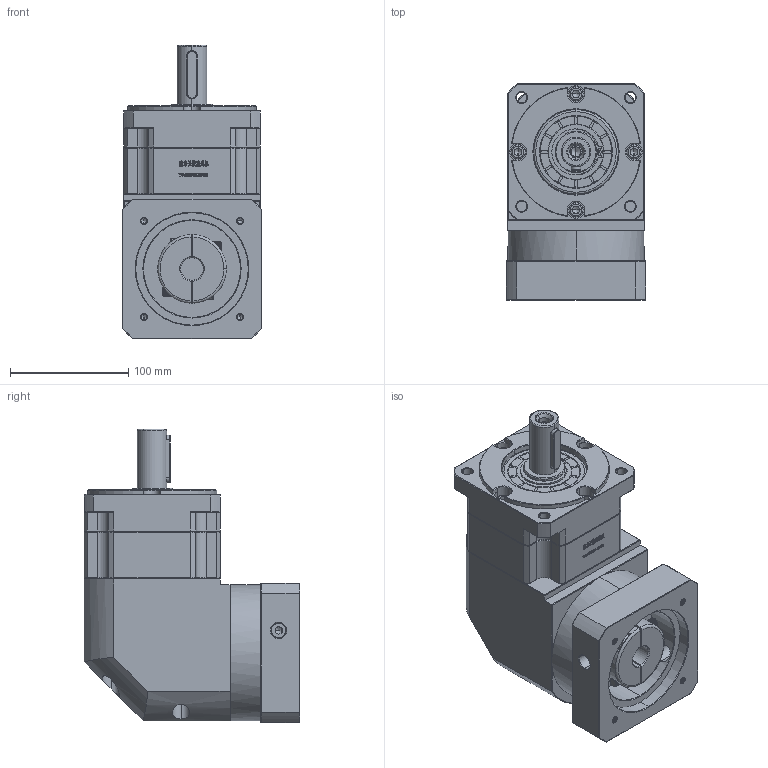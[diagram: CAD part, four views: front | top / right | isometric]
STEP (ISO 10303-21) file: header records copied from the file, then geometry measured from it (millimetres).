
FILE_DESCRIPTION (( 'STEP AP214' ), '1' );
FILE_NAME ('ZBR115A-D25-L1-19-95-115-M6.step', '2023-03-03T04:54:34', ( '' ), ( 'Microsoft' ), 'SwSTEP 2.0', 'SolidWorks 2016', '' );
FILE_SCHEMA (( 'AUTOMOTIVE_DESIGN' ));
Length unit declared in the file: millimetre
Products named in the file (1): ZBR115A-D25-L1-19-95-115-M6
Bounding box: 118 x 182.4 x 248 mm (x, y, z)
Volume: 2863028.7 mm3; surface area: 238472.6 mm2
Topology: 6 solids, 6 shells, 2969 faces, 7880 edges, 5056 vertices
Faces by surface type: plane 1558, bspline 610, cylinder 424, cone 369, torus 8
Entity records: 162104 total; most frequent: CARTESIAN_POINT 60538, ORIENTED_EDGE 15700, DIRECTION 11897, EDGE_CURVE 7850, LINE 5287, VECTOR 5287, VERTEX_POINT 5056, AXIS2_PLACEMENT_3D 3305
